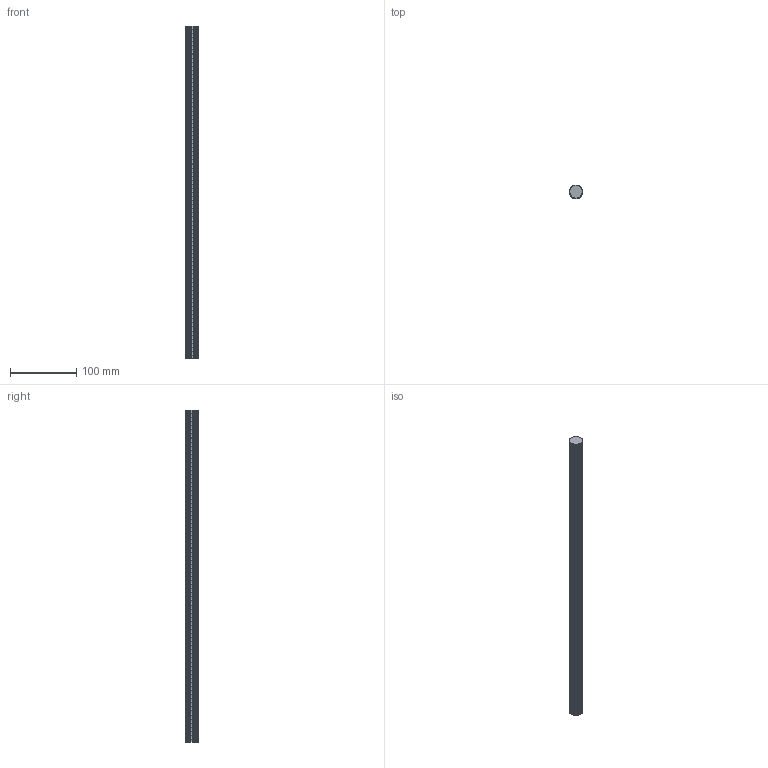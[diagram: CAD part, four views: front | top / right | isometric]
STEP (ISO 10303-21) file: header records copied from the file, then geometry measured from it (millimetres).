
FILE_DESCRIPTION(('step-conformance generated part'),'2;1');
FILE_NAME('grooved_shaft.step','2026-10-12T00:00:00',(''),(''),'step-conformance generate','step-conformance generate','');
FILE_SCHEMA(('AUTOMOTIVE_DESIGN { 1 0 10303 214 1 1 1 1 }'));
Length unit declared in the file: millimetre
Products named in the file (1): grooved_shaft
Bounding box: 20 x 20 x 501 mm (x, y, z)
Volume: 153532.3 mm3; surface area: 38058.2 mm2
Topology: 1 solids, 1 shells, 753 faces, 1503 edges, 752 vertices
Faces by surface type: cone 500, cylinder 251, plane 2
Full cylindrical faces by diameter (mm): 20 x251
Entity records: 18818 total; most frequent: DIRECTION 3763, CARTESIAN_POINT 3009, ORIENTED_EDGE 3006, AXIS2_PLACEMENT_3D 1506, EDGE_CURVE 1503, EDGE_LOOP 753, FACE_OUTER_BOUND 753, ADVANCED_FACE 753
